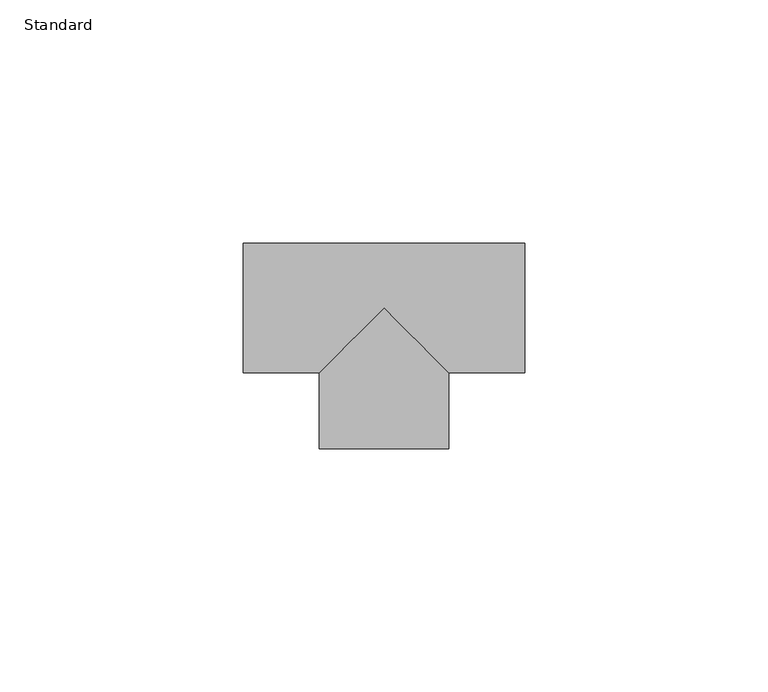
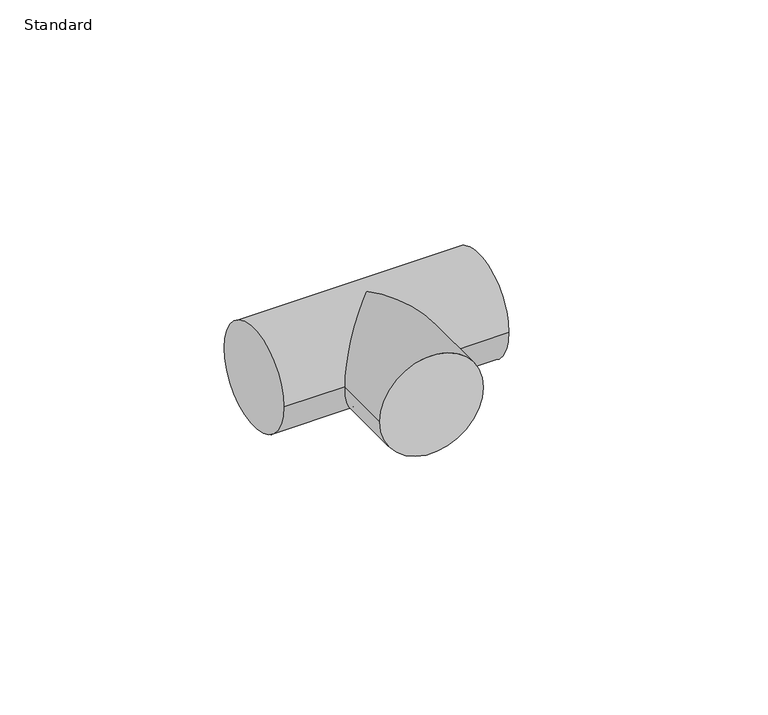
"""IFC4 building model written with IfcOpenShell, lengths in millimetres: pipe fitting geometry, Té - Générique : Standard."""

import ifcopenshell
import ifcopenshell.guid

model = None  # the IFC model being written
_history = None  # IfcOwnerHistory: only IFC2X3 demands one
_inside = {}  # id of a spatial element -> (the spatial element, [elements in it])
_under = {}  # id of a project, library or spatial element -> (it, [spatial elements below it])
_declared = {}  # id of a project -> (the project, [libraries it declares])
_typed = {}  # id of a type object -> (the type object, [elements of that type])
_made_of = {}  # id of a material, layer set ... -> (it, [elements and type objects made of it])


def new_model(schema):
    """Start an empty IFC model of exactly this schema.

    Asked for "IFC4X3", IfcOpenShell would pick the latest addendum, in which some entities
    have other attributes; the version numbers below select the first issue.
    IFC2X3 requires an IfcOwnerHistory on every rooted entity: one is made here for all.
    """
    global model, _history
    if schema == "IFC4X3":
        model = ifcopenshell.file(schema_version=(4, 3, 0, 0))
    else:
        model = ifcopenshell.file(schema=schema)
    _inside.clear()
    _under.clear()
    _declared.clear()
    _typed.clear()
    _made_of.clear()
    _history = None
    if model.schema == "IFC2X3":
        org = make("IfcOrganization", Name="unknown")
        user = make(
            "IfcPersonAndOrganization",
            ThePerson=make("IfcPerson", FamilyName="unknown"),
            TheOrganization=org,
        )
        app = make(
            "IfcApplication",
            ApplicationDeveloper=org,
            Version="unknown",
            ApplicationFullName="unknown",
            ApplicationIdentifier="unknown",
        )
        _history = make(
            "IfcOwnerHistory",
            OwningUser=user,
            OwningApplication=app,
            ChangeAction="ADDED",
            CreationDate=0,
        )
    return model


def make(cls, **values):
    """One entity of the class cls with the attributes given. An attribute that is None is left unset."""
    return model.create_entity(
        cls, **{name: value for name, value in values.items() if value is not None}
    )


def rooted(cls, **values):
    """An entity with a GlobalId (a new one), such as an element, a storey or a relation."""
    return make(cls, GlobalId=ifcopenshell.guid.new(), OwnerHistory=_history, **values)


def si_unit(unit_type, name, prefix=None):
    """IfcSIUnit, for example si_unit("LENGTHUNIT", "METRE", prefix="MILLI")."""
    return make("IfcSIUnit", UnitType=unit_type, Prefix=prefix, Name=name)


def assignment(units):
    """IfcUnitAssignment: the units of a project."""
    return None if units is None else make("IfcUnitAssignment", Units=units)


def point(xyz):
    """IfcCartesianPoint."""
    return None if xyz is None else make("IfcCartesianPoint", Coordinates=xyz)


def direction(xyz):
    """IfcDirection."""
    return None if xyz is None else make("IfcDirection", DirectionRatios=xyz)


def frame(location, z_axis=None, x_axis=None):
    """IfcAxis2Placement3D, a coordinate frame: its origin and axes. An axis left out is left unset."""
    return make(
        "IfcAxis2Placement3D",
        Location=point(location),
        Axis=direction(z_axis),
        RefDirection=direction(x_axis),
    )


def origin():
    """The frame at (0, 0, 0) with its axes left unset."""
    return frame((0.0, 0.0, 0.0))


def place(relative_to, where):
    """IfcLocalPlacement: puts the frame where relative to a parent placement (None: the world)."""
    return make(
        "IfcLocalPlacement", PlacementRelTo=relative_to, RelativePlacement=where
    )


def context(
    kind, dimensions, precision=None, world=None, true_north=None, identifier=None
):
    """IfcGeometricRepresentationContext, for example the 3D "Model" context."""
    return make(
        "IfcGeometricRepresentationContext",
        ContextIdentifier=identifier,
        ContextType=kind,
        CoordinateSpaceDimension=dimensions,
        Precision=precision,
        WorldCoordinateSystem=world,
        TrueNorth=true_north,
    )


def project(units=None, contexts=None):
    """IfcProject with its units and contexts."""
    return rooted(
        "IfcProject",
        Name="project",
        RepresentationContexts=contexts,
        UnitsInContext=assignment(units),
    )


def spatial(cls, under=None, at=None, **own):
    """A site, building, storey or space (cls), placed at a placement, below another one or the project."""
    s = rooted(cls, ObjectPlacement=at, **own)
    if under is not None:
        _under.setdefault(under.id(), (under, []))[1].append(s)
    return s


def circle_curve(where, radius):
    """IfcCircle in the frame where."""
    return make("IfcCircle", Position=where, Radius=radius)


def ellipse_curve(where, semi_axis1, semi_axis2):
    """IfcEllipse in the frame where."""
    return make(
        "IfcEllipse", Position=where, SemiAxis1=semi_axis1, SemiAxis2=semi_axis2
    )


def shape(context_of_items, identifier, shape_type, items):
    """IfcShapeRepresentation: the items that make up one representation, for example the "Body"."""
    return make(
        "IfcShapeRepresentation",
        ContextOfItems=context_of_items,
        RepresentationIdentifier=identifier,
        RepresentationType=shape_type,
        Items=items,
    )


def source(mapping_origin, context_of_items, identifier, shape_type, items):
    """IfcRepresentationMap: a shape defined once, which mapped items show again and again."""
    return make(
        "IfcRepresentationMap",
        MappingOrigin=mapping_origin,
        MappedRepresentation=shape(context_of_items, identifier, shape_type, items),
    )


def transform(
    local_origin,
    x_axis=None,
    y_axis=None,
    z_axis=None,
    scale=None,
    scale2=None,
    scale3=None,
    uniform=True,
):
    """IfcCartesianTransformationOperator3D, or its non-uniform kind. x_axis, y_axis, z_axis: its Axis1, 2, 3."""
    if uniform:
        return make(
            "IfcCartesianTransformationOperator3D",
            Axis1=direction(x_axis),
            Axis2=direction(y_axis),
            LocalOrigin=point(local_origin),
            Scale=scale,
            Axis3=direction(z_axis),
        )
    return make(
        "IfcCartesianTransformationOperator3DnonUniform",
        Axis1=direction(x_axis),
        Axis2=direction(y_axis),
        LocalOrigin=point(local_origin),
        Scale=scale,
        Axis3=direction(z_axis),
        Scale2=scale2,
        Scale3=scale3,
    )


def mapped(mapping_source, mapping_target):
    """IfcMappedItem: shows the shape of a source again, moved by a transform."""
    return make(
        "IfcMappedItem", MappingSource=mapping_source, MappingTarget=mapping_target
    )


def made_of(thing, what):
    """Note that an element or type object is made of a material, layer set ...; save() writes the relation."""
    if what is not None:
        _made_of.setdefault(what.id(), (what, []))[1].append(thing)
    return thing


def element(
    cls,
    number,
    at=None,
    inside=None,
    cuts=None,
    type_object=None,
    material=None,
    context=None,
    identifier="Body",
    shape_type=None,
    held_by="IfcProductDefinitionShape",
    body=None,
    shapes=None,
    **own,
):
    """One element of the class cls, such as IfcWall. Its Tag is "e" and its number.

    at: its placement. inside: the storey or other place that contains it. cuts: it is an
    opening in that element (IfcRelVoidsElement). A single representation is given by context,
    identifier, shape_type and body (its items); several are given by shapes. held_by: the class
    of the entity that holds the representations. save() writes the other relations.
    """
    e = rooted(cls, Tag="e%d" % number, ObjectPlacement=at, **own)
    if body is not None:
        shapes = [shape(context, identifier, shape_type, body)]
    if shapes is not None:
        e.Representation = make(held_by, Representations=shapes)
    if inside is not None:
        _inside.setdefault(inside.id(), (inside, []))[1].append(e)
    if cuts is not None:
        rooted(
            "IfcRelVoidsElement", RelatingBuildingElement=cuts, RelatedOpeningElement=e
        )
    if type_object is not None:
        _typed.setdefault(type_object.id(), (type_object, []))[1].append(e)
    return made_of(e, material)


def aggregate(whole, parts):
    """IfcRelAggregates: a whole, such as a stair, and the parts it consists of."""
    return rooted("IfcRelAggregates", RelatingObject=whole, RelatedObjects=parts)


def save(model, path):
    """Write the relations noted so far, then the file.

    IfcRelAggregates (storeys below a building ...), IfcRelContainedInSpatialStructure (elements
    in a storey), IfcRelDefinesByType, IfcRelAssociatesMaterial and IfcRelDeclares: one each for
    every whole, place, type object, material and project.
    """
    for whole, parts in _under.values():
        aggregate(whole, parts)
    for where, things in _inside.values():
        rooted(
            "IfcRelContainedInSpatialStructure",
            RelatedElements=things,
            RelatingStructure=where,
        )
    for kind, things in _typed.values():
        rooted("IfcRelDefinesByType", RelatedObjects=things, RelatingType=kind)
    for what, things in _made_of.values():
        rooted("IfcRelAssociatesMaterial", RelatedObjects=things, RelatingMaterial=what)
    for by, libraries in _declared.values():
        rooted("IfcRelDeclares", RelatingContext=by, RelatedDefinitions=libraries)
    model.write(path)


def plane_surface(at):
    """IfcPlane: the flat surface through the origin of the frame at, square to its z axis."""
    return make("IfcPlane", Position=at)


def cylinder_surface(at, radius):
    """IfcCylindricalSurface: all points at the distance radius from the z axis of the frame at."""
    return make("IfcCylindricalSurface", Position=at, Radius=radius)


def advanced_brep(points, edges, surfaces, faces):
    """IfcAdvancedBrep: a solid bounded by faces that lie on surfaces and meet in shared edges.

    An edge is (start, end): straight between two places in points (the first is 0);
    or (start, end, curve); or (start, end, curve, False) where it runs against its curve.
    A face is (place in surfaces, loops), or (place, loops, False) where it looks against
    its surface's normal. A loop lists edges by number (the first is 1), with a minus sign
    where the edge is run from its end to its start. The first loop is the outer one.
    """
    corners = [point(p) for p in points]
    vertices = [make("IfcVertexPoint", VertexGeometry=c) for c in corners]
    made = []
    for start, end, *more in edges:
        made.append(
            make(
                "IfcEdgeCurve",
                EdgeStart=vertices[start],
                EdgeEnd=vertices[end],
                EdgeGeometry=more[0] if more else make("IfcPolyline", Points=[corners[start], corners[end]]),
                SameSense=more[1] if len(more) > 1 else True,
            )
        )
    hull = []
    for where, loops, *sense in faces:
        bounds = []
        for j, loop in enumerate(loops):
            ring = [make("IfcOrientedEdge", EdgeElement=made[abs(k) - 1], Orientation=k > 0) for k in loop]
            bounds.append(
                make(
                    "IfcFaceOuterBound" if j == 0 else "IfcFaceBound",
                    Bound=make("IfcEdgeLoop", EdgeList=ring),
                    Orientation=True,
                )
            )
        hull.append(make("IfcAdvancedFace", Bounds=bounds, FaceSurface=surfaces[where], SameSense=sense[0] if sense else True))
    return make("IfcAdvancedBrep", Outer=make("IfcClosedShell", CfsFaces=hull))


def standard_f2ba753d(model_context):
    return source(origin(), model_context, "Body", "AdvancedBrep", [
        advanced_brep(
        [(-29.0, -13.35, 0.0), (-29.0, 13.35, 0.0), (29.0, -13.35, 0.0), (29.0, 13.35, 0.0), (-13.35, -13.35, 0.0), (0.0, 0.0, 13.35), (13.35, -13.35, 0.0), (0.0, 0.0, -13.35), (-13.35, -29.0, 0.0), (13.35, -29.0, 0.0)],
        [
            (0, 1, circle_curve(frame((-29.0, 0.0, 0.0), z_axis=(-1.0, 0.0, 0.0), x_axis=(0.0, 1.0, 0.0)), 13.35)),
            (1, 0, circle_curve(frame((-29.0, 0.0, 0.0), z_axis=(-1.0, 0.0, 0.0), x_axis=(0.0, 1.0, 0.0)), 13.35)),
            (2, 3, circle_curve(frame((29.0, 0.0, 0.0), z_axis=(1.0, 0.0, 0.0), x_axis=(0.0, 1.0, 0.0)), 13.35)),
            (3, 2, circle_curve(frame((29.0, 0.0, 0.0), z_axis=(1.0, 0.0, 0.0), x_axis=(0.0, 1.0, 0.0)), 13.35)),
            (0, 4),
            (4, 5, ellipse_curve(frame((0.0, 0.0, 0.0), z_axis=(-0.707106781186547, 0.7071067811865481, 0.0), x_axis=(-0.707106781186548, -0.707106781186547, 0.0)), 18.8797511, 13.35)),
            (5, 6, ellipse_curve(frame((0.0, 0.0, 0.0), z_axis=(0.707106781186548, 0.7071067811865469, 0.0), x_axis=(-0.707106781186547, 0.707106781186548, 0.0)), 18.8797511, 13.35)),
            (6, 2),
            (3, 1),
            (6, 7, ellipse_curve(frame((0.0, 0.0, 0.0), z_axis=(0.707106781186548, 0.7071067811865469, 0.0), x_axis=(-0.707106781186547, 0.707106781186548, 0.0)), 18.8797511, 13.35)),
            (7, 4, ellipse_curve(frame((0.0, 0.0, 0.0), z_axis=(-0.707106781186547, 0.7071067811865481, 0.0), x_axis=(-0.707106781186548, -0.707106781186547, 0.0)), 18.8797511, 13.35)),
            (8, 9, circle_curve(frame((0.0, -29.0, 0.0), z_axis=(0.0, -1.0, 0.0), x_axis=(1.0, 0.0, 0.0)), 13.35)),
            (9, 8, circle_curve(frame((0.0, -29.0, 0.0), z_axis=(0.0, -1.0, 0.0), x_axis=(1.0, 0.0, 0.0)), 13.35)),
            (9, 6),
            (4, 8),
        ],
        [
            plane_surface(frame((-29.0, 0.0, 0.0), z_axis=(-1.0, 0.0, 0.0), x_axis=(0.0, 0.0, 1.0))),
            plane_surface(frame((29.0, 0.0, 0.0), z_axis=(1.0, 0.0, 0.0), x_axis=(0.0, 0.0, 1.0))),
            cylinder_surface(frame((-29.0, 0.0, 0.0), z_axis=(-1.0, 0.0, 0.0), x_axis=(0.0, 1.0, 0.0)), 13.35),
            plane_surface(frame((0.0, -29.0, 0.0), z_axis=(0.0, -1.0, 0.0), x_axis=(0.0, 0.0, 1.0))),
            cylinder_surface(frame((0.0, 0.0, 0.0), z_axis=(0.0, 1.0, 0.0), x_axis=(1.0, 0.0, 0.0)), 13.35),
        ],
        [
            (0, [[1, 2]]),
            (1, [[3, 4]]),
            (2, [[-1, 5, 6, 7, 8, -4, 9]]),
            (2, [[-2, -9, -3, -8, 10, 11, -5]]),
            (3, [[12, 13]]),
            (4, [[-13, 14, -7, -6, 15]]),
            (4, [[-12, -15, -11, -10, -14]]),
        ],
    ),
    ])


if __name__ == "__main__":
    model = new_model("IFC4")
    model_context = context("Model", 3, world=origin())
    ifc_project = project(units=[si_unit("LENGTHUNIT", "METRE", prefix="MILLI")], contexts=[model_context])
    site = spatial("IfcSite", under=ifc_project)
    building = spatial("IfcBuilding", under=site)
    placement = place(None, origin())
    standard_shape = standard_f2ba753d(model_context)
    element("IfcPipeFitting", 1, ObjectType="Té - Générique : Standard", at=placement, inside=building, context=model_context, shape_type="MappedRepresentation", body=[
        mapped(standard_shape, transform((0.0, 0.0, 0.0), x_axis=(1.0, 0.0, 0.0), y_axis=(0.0, 1.0, 0.0), z_axis=(0.0, 0.0, 1.0))),
    ])
    save(model, "model.ifc")
